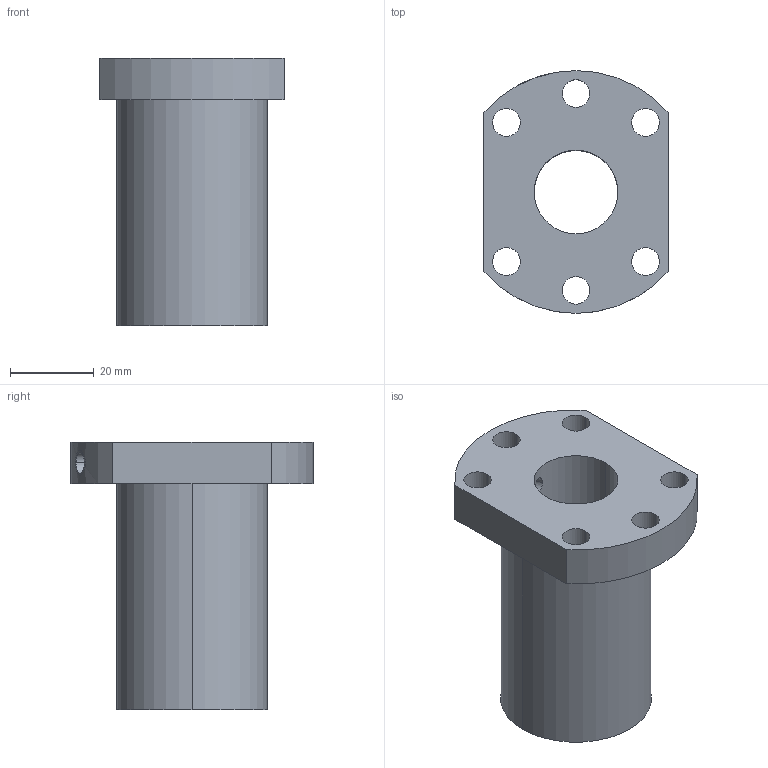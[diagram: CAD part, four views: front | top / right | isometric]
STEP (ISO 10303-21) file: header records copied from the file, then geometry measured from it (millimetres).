
FILE_DESCRIPTION((''),'2;1');
FILE_NAME('A10E3DA1','2018-09-04T',('wayne16941.lin'),(''),'PRO/ENGINEER BY PARAMETRIC TECHNOLOGY CORPORATION, 2012200','PRO/ENGINEER BY PARAMETRIC TECHNOLOGY CORPORATION, 2012200','');
FILE_SCHEMA(('CONFIG_CONTROL_DESIGN'));
Length unit declared in the file: millimetre
Products named in the file (1): A10E3DA1
Bounding box: 44 x 58 x 64 mm (x, y, z)
Volume: 55239.8 mm3; surface area: 17064.5 mm2
Topology: 1 solids, 2 shells, 32 faces, 84 edges, 56 vertices
Faces by surface type: cylinder 24, plane 6, cone 2
Entity records: 1170 total; most frequent: CARTESIAN_POINT 273, DIRECTION 186, ORIENTED_EDGE 162, EDGE_CURVE 84, AXIS2_PLACEMENT_3D 77, VERTEX_POINT 56, EDGE_LOOP 50, CIRCLE 44
